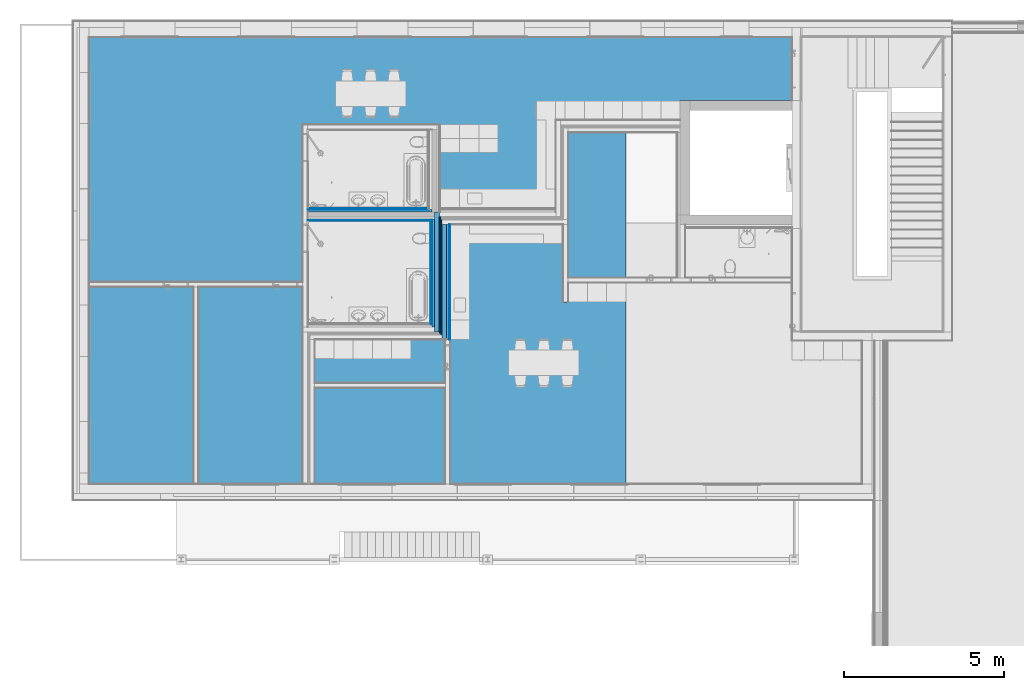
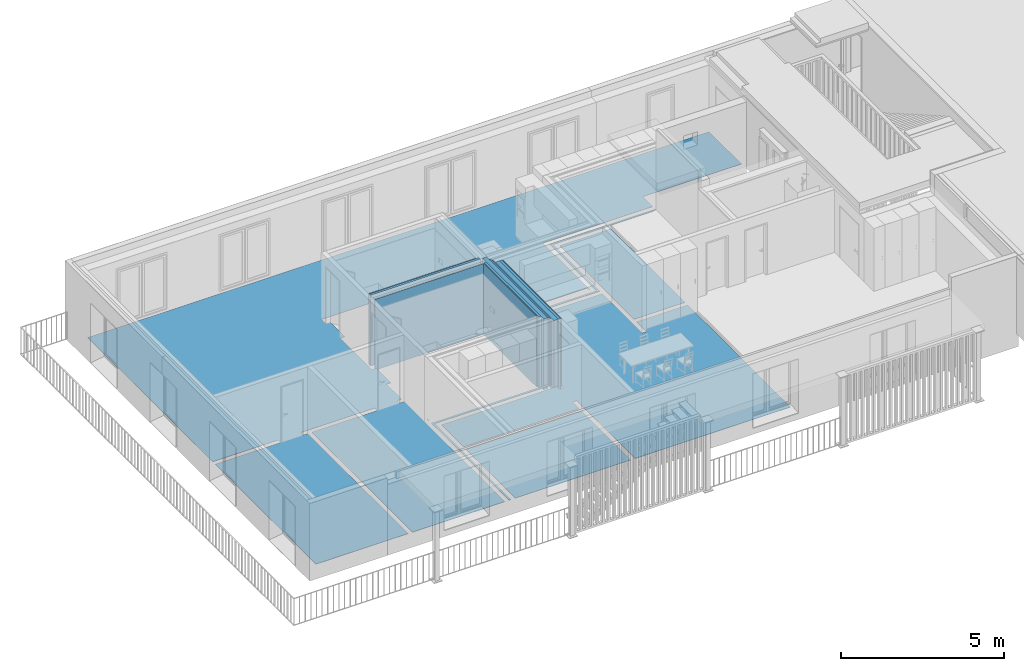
# One storey, part 9 of 34: 18 building element parts, 7 elements without a shape of their own.
"""IFC4 building model written with IfcOpenShell, lengths in millimetres."""

from ifc_helpers import new_model, entity, si_unit, converted_unit, derived_unit, direction, frame, origin_with_axes, place, context, subcontext, project, spatial, polygons, material, type_object, element, aggregate, save


model = new_model("IFC4")

# Units and contexts
model_context = context("Model", 3, precision=0.01, world=origin_with_axes(), true_north=direction((0.0, 1.0)))
body_context = subcontext(model_context, "Body", "Model", "MODEL_VIEW")
ifc_project = project(units=[si_unit("LENGTHUNIT", "METRE", prefix="MILLI"), si_unit("AREAUNIT", "SQUARE_METRE"), si_unit("VOLUMEUNIT", "CUBIC_METRE"), converted_unit("PLANEANGLEUNIT", "DEGREE", entity("IfcPlaneAngleMeasure", 0.0174532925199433), si_unit("PLANEANGLEUNIT", "RADIAN"), dimensions=[0, 0, 0, 0, 0, 0, 0]), converted_unit("TIMEUNIT", "Year", entity("IfcTimeMeasure", 31557600.0), si_unit("TIMEUNIT", "SECOND"), dimensions=[0, 0, 1, 0, 0, 0, 0]), si_unit("MASSUNIT", "GRAM", prefix="KILO"), si_unit("THERMODYNAMICTEMPERATUREUNIT", "DEGREE_CELSIUS"), si_unit("LUMINOUSINTENSITYUNIT", "LUMEN"), si_unit("ENERGYUNIT", "JOULE", prefix="MEGA"), derived_unit("THERMALCONDUCTANCEUNIT", [(si_unit("POWERUNIT", "WATT"), 1), (si_unit("LENGTHUNIT", "METRE"), -1), (si_unit("THERMODYNAMICTEMPERATUREUNIT", "KELVIN"), -1)]), derived_unit("SPECIFICHEATCAPACITYUNIT", [(si_unit("ENERGYUNIT", "JOULE"), 1), (si_unit("MASSUNIT", "GRAM", prefix="KILO"), -1), (si_unit("THERMODYNAMICTEMPERATUREUNIT", "KELVIN"), -1)]), derived_unit("MASSDENSITYUNIT", [(si_unit("MASSUNIT", "GRAM", prefix="KILO"), 1), (si_unit("VOLUMEUNIT", "CUBIC_METRE"), -1)])], contexts=[model_context])

# Site, building, storey
site_placement = place(None, origin_with_axes())
site = spatial("IfcSite", under=ifc_project, at=site_placement, Name="Gelände", CompositionType="ELEMENT")
building_placement = place(site_placement, origin_with_axes())
building = spatial("IfcBuilding", under=site, at=building_placement, Name="Gebäude", CompositionType="ELEMENT")
storey_placement = place(building_placement, frame((0.0, 0.0, 5799.999999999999), z_axis=(0.0, 0.0, 1.0), x_axis=(1.0, 0.0, 0.0)))
storey = spatial("IfcBuildingStorey", under=building, at=storey_placement, Name="2.OG", CompositionType="ELEMENT", Elevation=5800.0)

# Covering, building element part
covering_type = type_object("IfcCoveringType", Name="Bodenaufbau Typ 01 150", PredefinedType="NOTDEFINED")
covering_placement = place(storey_placement, frame((-6561.004181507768, 23457.59674077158, 0.0), z_axis=(0.0, 0.0, 1.0), x_axis=(1.0, 0.0, 0.0)))
covering = element("IfcCovering", 1, at=covering_placement, inside=storey, type_object=covering_type, Name="Decke-007", PredefinedType="NOTDEFINED")
ifc_material_1 = material(Name="Bodenbelag")
building_element_part_1_placement = place(covering_placement, origin_with_axes())
building_element_part_1 = element("IfcBuildingElementPart", 2, at=building_element_part_1_placement, material=ifc_material_1, Name="Bodenbelag", PredefinedType="NOTDEFINED", context=body_context, shape_type="Tessellation", body=[
    polygons([(16790.00162627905, 11000.00054054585, 135.0000000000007), (16790.00162627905, 11000.00054054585, 150.0000000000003), (16790.00162627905, 6450.000540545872, 150.0000000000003), (16790.00162627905, 6450.000540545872, 135.0000000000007), (14980.00162627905, 11000.00054054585, 150.0000000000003), (14980.00162627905, 11000.00054054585, 135.0000000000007), (14980.00162627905, 8275.000540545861, 150.0000000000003), (14980.00162627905, 8125.000540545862, 150.0000000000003), (14980.00162627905, 6450.000540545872, 150.0000000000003), (14980.00162627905, 6450.000540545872, 135.0000000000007), (14980.00162627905, 8125.000540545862, 135.0000000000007), (14980.00162627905, 8275.000540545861, 135.0000000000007)], [[[1, 2, 3, 4]], [[5, 2, 1, 6]], [[2, 5, 7, 8, 9, 3]], [[9, 10, 4, 3]], [[6, 1, 4, 10, 11, 12]], [[5, 6, 12, 7]], [[7, 12, 11, 8]], [[8, 11, 10, 9]]], closed=True),
    polygons([(10621.77773059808, 8610.000540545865, 150.0000000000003), (10621.77773059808, 8620.000540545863, 150.0000000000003), (10611.77773059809, 8620.000540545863, 150.0000000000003), (10611.77773059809, 8610.000540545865, 150.0000000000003), (10621.77773059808, 8620.000540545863, 135.0000000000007), (10621.77773059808, 8610.000540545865, 135.0000000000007), (10611.77773059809, 8620.000540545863, 135.0000000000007), (10611.77773059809, 8610.000540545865, 135.0000000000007)], [[[1, 2, 3, 4]], [[5, 2, 1, 6]], [[2, 5, 7, 3]], [[3, 7, 8, 4]], [[6, 1, 4, 8]], [[5, 6, 8, 7]]], closed=True),
    polygons([(3420.000000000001, 6167.487519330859, 150.0000000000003), (3420.000000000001, 0.0, 150.0000000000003), (6683.999999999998, 0.0, 150.0000000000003), (6683.999999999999, 4756.776644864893, 150.0000000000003), (6683.999999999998, 4906.776644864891, 150.0000000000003), (6683.999999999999, 6167.487519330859, 150.0000000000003), (6534.0, 6167.487519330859, 150.0000000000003), (6534.0, 6317.487519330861, 150.0000000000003), (6683.999999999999, 6317.487519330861, 150.0000000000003), (6683.999999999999, 7245.000540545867, 150.0000000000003), (6843.999999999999, 7245.000540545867, 150.0000000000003), (6843.999999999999, 8135.000540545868, 150.0000000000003), (6683.999999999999, 8135.000540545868, 150.0000000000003), (6684.0, 10081.46696329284, 150.0000000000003), (6844.0, 10081.46696329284, 150.0000000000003), (6844.0, 10971.46696329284, 150.0000000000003), (6684.0, 10971.46696329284, 150.0000000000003), (6684.0, 11236.46696329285, 150.0000000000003), (6834.000000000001, 11236.46696329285, 150.0000000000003), (10876.77773059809, 11236.46696329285, 150.0000000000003), (10876.77773059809, 11246.46696329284, 150.0000000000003), (10981.77773059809, 11246.46696329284, 150.0000000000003), (10981.77773059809, 8610.000540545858, 150.0000000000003), (14590.00162627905, 8610.000540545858, 150.0000000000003), (14590.00162627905, 8505.000540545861, 150.0000000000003), (14600.00162627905, 8505.000540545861, 150.0000000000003), (14600.00162627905, 11380.00054054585, 150.0000000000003), (14750.00162627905, 11380.00054054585, 150.0000000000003), (18490.00162627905, 11380.00054054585, 150.0000000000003), (18490.00162627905, 11990.00054054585, 150.0000000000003), (21980.00162627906, 11990.00054054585, 150.0000000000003), (21980.00162627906, 13980.00054054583, 150.0000000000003), (0.0, 13980.00054054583, 150.0000000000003), (0.0, 6317.487519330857, 150.0000000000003), (2310.000000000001, 6317.487519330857, 150.0000000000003), (2310.000000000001, 6167.487519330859, 150.0000000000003), (0.0, 6167.487519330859, 150.0000000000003), (0.0, 0.0, 150.0000000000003), (3270.0, 0.0, 150.0000000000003), (3270.0, 6167.487519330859, 150.0000000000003), (3110.000000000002, 6167.487519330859, 150.0000000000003), (3110.000000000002, 6317.487519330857, 150.0000000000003), (5733.999999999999, 6317.487519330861, 150.0000000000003), (5733.999999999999, 6167.487519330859, 150.0000000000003), (3420.000000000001, 6167.487519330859, 135.0000000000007), (3420.000000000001, 0.0, 135.0000000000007), (6683.999999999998, 0.0, 135.0000000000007), (6683.999999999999, 4756.776644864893, 135.0000000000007), (6683.999999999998, 4906.776644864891, 135.0000000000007), (6683.999999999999, 6167.487519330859, 135.0000000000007), (6534.0, 6167.487519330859, 135.0000000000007), (6534.0, 6317.487519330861, 135.0000000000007), (6683.999999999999, 6317.487519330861, 135.0000000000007), (6683.999999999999, 7245.000540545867, 135.0000000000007), (6843.999999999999, 7245.000540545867, 135.0000000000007), (6843.999999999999, 8135.000540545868, 135.0000000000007), (6683.999999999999, 8135.000540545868, 135.0000000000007), (6684.0, 10081.46696329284, 135.0000000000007), (6844.0, 10081.46696329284, 135.0000000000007), (6844.0, 10971.46696329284, 135.0000000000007), (6684.0, 10971.46696329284, 135.0000000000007), (6684.0, 11236.46696329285, 135.0000000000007), (6834.000000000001, 11236.46696329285, 135.0000000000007), (10876.77773059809, 11236.46696329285, 135.0000000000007), (10876.77773059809, 11246.46696329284, 135.0000000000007), (10981.77773059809, 11246.46696329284, 135.0000000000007), (10981.77773059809, 8610.000540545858, 135.0000000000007), (14590.00162627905, 8610.000540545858, 135.0000000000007), (14590.00162627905, 8505.000540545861, 135.0000000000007), (14600.00162627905, 8505.000540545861, 135.0000000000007), (14600.00162627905, 11380.00054054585, 135.0000000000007), (14750.00162627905, 11380.00054054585, 135.0000000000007), (18490.00162627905, 11380.00054054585, 135.0000000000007), (18490.00162627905, 11990.00054054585, 135.0000000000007), (21980.00162627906, 11990.00054054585, 135.0000000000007), (21980.00162627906, 13980.00054054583, 135.0000000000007), (0.0, 13980.00054054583, 135.0000000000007), (0.0, 6317.487519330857, 135.0000000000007), (2310.000000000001, 6317.487519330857, 135.0000000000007), (2310.000000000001, 6167.487519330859, 135.0000000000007), (0.0, 6167.487519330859, 135.0000000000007), (0.0, 0.0, 135.0000000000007), (3270.0, 0.0, 135.0000000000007), (3270.0, 6167.487519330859, 135.0000000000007), (3110.000000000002, 6167.487519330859, 135.0000000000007), (3110.000000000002, 6317.487519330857, 135.0000000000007), (5733.999999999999, 6317.487519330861, 135.0000000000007), (5733.999999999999, 6167.487519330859, 135.0000000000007)], [[[1, 2, 3, 4, 5, 6, 7, 8, 9, 10, 11, 12, 13, 14, 15, 16, 17, 18, 19, 20, 21, 22, 23, 24, 25, 26, 27, 28, 29, 30, 31, 32, 33, 34, 35, 36, 37, 38, 39, 40, 41, 42, 43, 44]], [[2, 1, 45, 46]], [[2, 46, 47, 3]], [[48, 4, 3, 47]], [[4, 48, 49, 5]], [[5, 49, 50, 6]], [[6, 50, 51, 7]], [[8, 7, 51, 52]], [[53, 9, 8, 52]], [[10, 9, 53, 54]], [[11, 10, 54, 55]], [[11, 55, 56, 12]], [[57, 13, 12, 56]], [[14, 13, 57, 58]], [[15, 14, 58, 59]], [[15, 59, 60, 16]], [[61, 17, 16, 60]], [[18, 17, 61, 62]], [[63, 19, 18, 62]], [[64, 20, 19, 63]], [[21, 20, 64, 65]], [[66, 22, 21, 65]], [[23, 22, 66, 67]], [[23, 67, 68, 24]], [[24, 68, 69, 25]], [[25, 69, 70, 26]], [[26, 70, 71, 27]], [[72, 28, 27, 71]], [[28, 72, 73, 29]], [[29, 73, 74, 30]], [[74, 75, 31, 30]], [[75, 76, 32, 31]], [[76, 77, 33, 32]], [[78, 34, 33, 77]], [[35, 34, 78, 79]], [[36, 35, 79, 80]], [[37, 36, 80, 81]], [[37, 81, 82, 38]], [[83, 39, 38, 82]], [[84, 40, 39, 83]], [[40, 84, 85, 41]], [[42, 41, 85, 86]], [[43, 42, 86, 87]], [[44, 43, 87, 88]], [[45, 1, 44, 88]], [[46, 45, 88, 87, 86, 85, 84, 83, 82, 81, 80, 79, 78, 77, 76, 75, 74, 73, 72, 71, 70, 69, 68, 67, 66, 65, 64, 63, 62, 61, 60, 59, 58, 57, 56, 55, 54, 53, 52, 51, 50, 49, 48, 47]]], closed=True),
    polygons([(10726.77773059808, 11076.46696329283, 150.0000000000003), (10726.77773059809, 11086.46696329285, 150.0000000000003), (10611.77773059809, 11086.46696329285, 150.0000000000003), (10611.77773059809, 11076.46696329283, 150.0000000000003), (10726.77773059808, 11076.46696329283, 135.0000000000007), (10726.77773059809, 11086.46696329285, 135.0000000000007), (10611.77773059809, 11086.46696329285, 135.0000000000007), (10611.77773059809, 11076.46696329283, 135.0000000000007)], [[[1, 2, 3, 4]], [[1, 5, 6, 2]], [[2, 6, 7, 3]], [[8, 4, 3, 7]], [[5, 1, 4, 8]], [[5, 8, 7, 6]]], closed=True),
    polygons([(10702.0, 8240.000540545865, 150.0000000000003), (10702.0, 8250.000540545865, 150.0000000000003), (10692.0, 8250.000540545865, 150.0000000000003), (10692.0, 8240.000540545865, 150.0000000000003), (10702.0, 8250.000540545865, 135.0000000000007), (10702.0, 8240.000540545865, 135.0000000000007), (10692.0, 8250.000540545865, 135.0000000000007), (10692.0, 8240.000540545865, 135.0000000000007)], [[[1, 2, 3, 4]], [[5, 2, 1, 6]], [[2, 5, 7, 3]], [[8, 4, 3, 7]], [[6, 1, 4, 8]], [[5, 6, 8, 7]]], closed=True),
    polygons([(6903.99998159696, 0.0, 150.0000000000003), (6903.99998159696, 4526.776644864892, 150.0000000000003), (6903.99998159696, 4676.776644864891, 150.0000000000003), (11037.0, 4676.776644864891, 150.0000000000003), (11037.0, 8125.000540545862, 150.0000000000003), (11037.0, 8275.000540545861, 150.0000000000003), (14830.00162627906, 8275.000540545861, 150.0000000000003), (14830.00162627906, 11150.00054054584, 150.0000000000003), (14980.00162627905, 11150.00054054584, 150.0000000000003), (18385.00162627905, 11150.00054054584, 150.0000000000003), (18385.00162627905, 11190.00054054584, 150.0000000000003), (18490.00162627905, 11190.00054054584, 150.0000000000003), (18490.00162627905, 11230.00054054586, 150.0000000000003), (14750.00162627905, 11230.00054054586, 150.0000000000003), (14750.00162627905, 8355.000540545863, 150.0000000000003), (14600.00162627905, 8355.000540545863, 150.0000000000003), (10957.0, 8355.000540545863, 150.0000000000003), (10957.0, 4756.776644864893, 150.0000000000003), (10807.0, 4756.776644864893, 150.0000000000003), (6833.999999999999, 4756.776644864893, 150.0000000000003), (6833.999999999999, 0.0, 150.0000000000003), (6903.99998159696, 4526.776644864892, 135.0000000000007), (6903.99998159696, 0.0, 135.0000000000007), (6903.99998159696, 4676.776644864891, 135.0000000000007), (11037.0, 4676.776644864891, 135.0000000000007), (11037.0, 8125.000540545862, 135.0000000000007), (11037.0, 8275.000540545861, 135.0000000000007), (14830.00162627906, 8275.000540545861, 135.0000000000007), (14830.00162627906, 11150.00054054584, 135.0000000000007), (14980.00162627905, 11150.00054054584, 135.0000000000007), (18385.00162627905, 11150.00054054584, 135.0000000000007), (18385.00162627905, 11190.00054054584, 135.0000000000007), (18490.00162627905, 11190.00054054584, 135.0000000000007), (18490.00162627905, 11230.00054054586, 135.0000000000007), (14750.00162627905, 11230.00054054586, 135.0000000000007), (14750.00162627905, 8355.000540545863, 135.0000000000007), (14600.00162627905, 8355.000540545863, 135.0000000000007), (10957.0, 8355.000540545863, 135.0000000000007), (10957.0, 4756.776644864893, 135.0000000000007), (10807.0, 4756.776644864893, 135.0000000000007), (6833.999999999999, 4756.776644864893, 135.0000000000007), (6833.999999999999, 0.0, 135.0000000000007)], [[[1, 2, 3, 4, 5, 6, 7, 8, 9, 10, 11, 12, 13, 14, 15, 16, 17, 18, 19, 20, 21]], [[22, 2, 1, 23]], [[2, 22, 24, 3]], [[25, 4, 3, 24]], [[4, 25, 26, 5]], [[5, 26, 27, 6]], [[28, 7, 6, 27]], [[8, 7, 28, 29]], [[30, 9, 8, 29]], [[10, 9, 30, 31]], [[11, 10, 31, 32]], [[33, 12, 11, 32]], [[12, 33, 34, 13]], [[35, 14, 13, 34]], [[15, 14, 35, 36]], [[37, 16, 15, 36]], [[17, 16, 37, 38]], [[17, 38, 39, 18]], [[40, 19, 18, 39]], [[41, 20, 19, 40]], [[21, 20, 41, 42]], [[23, 1, 21, 42]], [[22, 23, 42, 41, 40, 39, 38, 37, 36, 35, 34, 33, 32, 31, 30, 29, 28, 27, 26, 25, 24]]], closed=True),
    polygons([(11142.0, 3010.000000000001, 135.0000000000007), (11142.0, 3010.000000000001, 150.0000000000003), (11142.0, 0.0, 150.0000000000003), (11142.0, 0.0, 135.0000000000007), (7053.99998159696, 3010.000000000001, 150.0000000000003), (7053.99998159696, 3010.000000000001, 135.0000000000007), (7053.99998159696, 0.0, 150.0000000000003), (7053.99998159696, 0.0, 135.0000000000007)], [[[1, 2, 3, 4]], [[5, 2, 1, 6]], [[2, 5, 7, 3]], [[4, 3, 7, 8]], [[6, 1, 4, 8]], [[5, 6, 8, 7]]], closed=True),
    polygons([(6843.999999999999, 4906.776644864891, 150.0000000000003), (6843.999999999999, 5021.77664486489, 150.0000000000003), (6833.999999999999, 5021.77664486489, 150.0000000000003), (6833.999999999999, 4906.776644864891, 150.0000000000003), (6843.999999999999, 4906.776644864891, 135.0000000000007), (6843.999999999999, 5021.77664486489, 135.0000000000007), (6833.999999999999, 5021.77664486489, 135.0000000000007), (6833.999999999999, 4906.776644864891, 135.0000000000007)], [[[1, 2, 3, 4]], [[2, 1, 5, 6]], [[2, 6, 7, 3]], [[8, 4, 3, 7]], [[5, 1, 4, 8]], [[5, 8, 7, 6]]], closed=True),
    polygons([(7053.99998159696, 3160.0, 150.0000000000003), (11142.0, 3160.0, 150.0000000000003), (11142.0, 3566.776644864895, 150.0000000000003), (11292.0, 3566.776644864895, 150.0000000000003), (11292.0, 0.0, 150.0000000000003), (16790.00162627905, 0.0, 150.0000000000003), (16790.00162627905, 6300.000540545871, 150.0000000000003), (14980.00162627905, 6300.000540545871, 150.0000000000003), (14980.00162627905, 5692.00054054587, 150.0000000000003), (14830.00162627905, 5692.00054054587, 150.0000000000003), (14830.00162627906, 8125.000540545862, 150.0000000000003), (11292.0, 8125.000540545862, 150.0000000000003), (11292.0, 4366.776644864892, 150.0000000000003), (11142.0, 4366.776644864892, 150.0000000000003), (11142.0, 4516.776644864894, 150.0000000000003), (11187.0, 4516.776644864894, 150.0000000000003), (11187.0, 4526.776644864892, 150.0000000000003), (11037.0, 4526.776644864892, 150.0000000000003), (7053.999981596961, 4526.776644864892, 150.0000000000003), (11142.0, 3160.0, 135.0000000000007), (7053.99998159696, 3160.0, 135.0000000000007), (11142.0, 3566.776644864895, 135.0000000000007), (11292.0, 3566.776644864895, 135.0000000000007), (11292.0, 0.0, 135.0000000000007), (16790.00162627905, 0.0, 135.0000000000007), (16790.00162627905, 6300.000540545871, 135.0000000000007), (14980.00162627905, 6300.000540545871, 135.0000000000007), (14980.00162627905, 5692.00054054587, 135.0000000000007), (14830.00162627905, 5692.00054054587, 135.0000000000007), (14830.00162627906, 8125.000540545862, 135.0000000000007), (11292.0, 8125.000540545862, 135.0000000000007), (11292.0, 4366.776644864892, 135.0000000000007), (11142.0, 4366.776644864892, 135.0000000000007), (11142.0, 4516.776644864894, 135.0000000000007), (11187.0, 4516.776644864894, 135.0000000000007), (11187.0, 4526.776644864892, 135.0000000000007), (11037.0, 4526.776644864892, 135.0000000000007), (7053.999981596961, 4526.776644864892, 135.0000000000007)], [[[1, 2, 3, 4, 5, 6, 7, 8, 9, 10, 11, 12, 13, 14, 15, 16, 17, 18, 19]], [[20, 2, 1, 21]], [[2, 20, 22, 3]], [[4, 3, 22, 23]], [[5, 4, 23, 24]], [[5, 24, 25, 6]], [[26, 7, 6, 25]], [[27, 8, 7, 26]], [[9, 8, 27, 28]], [[10, 9, 28, 29]], [[30, 11, 10, 29]], [[31, 12, 11, 30]], [[31, 32, 13, 12]], [[14, 13, 32, 33]], [[15, 14, 33, 34]], [[35, 16, 15, 34]], [[16, 35, 36, 17]], [[37, 18, 17, 36]], [[38, 19, 18, 37]], [[21, 1, 19, 38]], [[20, 21, 38, 37, 36, 35, 34, 33, 32, 31, 30, 29, 28, 27, 26, 25, 24, 23, 22]]], closed=True),
])
aggregate(covering, [building_element_part_1])

# Wall, building element parts
wall_type_1 = type_object("IfcWallType", Name="Trennwand Typ 02 - kein Putz 190", PredefinedType="NOTDEFINED")
wall_1_placement = place(storey_placement, frame((4245.995818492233, 31962.59728131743, 0.0), z_axis=(0.0, 0.0, 1.0), x_axis=(0.0, -1.0, 0.0)))
wall_1 = element("IfcWall", 3, at=wall_1_placement, inside=storey, type_object=wall_type_1, Name="Wand-015", PredefinedType="NOTDEFINED")
ifc_material_2 = material(Name="MW, Backstein")
building_element_part_2_placement = place(wall_1_placement, origin_with_axes())
building_element_part_2 = element("IfcBuildingElementPart", 4, at=building_element_part_2_placement, material=ifc_material_2, Name="MW, Backstein", PredefinedType="NOTDEFINED", context=body_context, shape_type="Tessellation", body=[
    polygons([(3748.223895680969, 150.0000000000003, 0.0), (3748.223895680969, 0.0, 0.0), (0.0, 0.0, 0.0), (0.0, 150.0000000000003, 0.0), (3748.223895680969, 150.0000000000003, 2649.999948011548), (3748.223895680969, 0.0, 2649.999948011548), (0.0, 0.0, 2649.999948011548), (0.0, 150.0000000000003, 2649.999948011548)], [[[1, 2, 3, 4]], [[2, 1, 5, 6]], [[2, 6, 7, 3]], [[8, 4, 3, 7]], [[5, 1, 4, 8]], [[6, 5, 8, 7]]], closed=True),
])
ifc_material_3 = material(Name="Dämmung Innen")
building_element_part_3_placement = place(wall_1_placement, origin_with_axes())
building_element_part_3 = element("IfcBuildingElementPart", 5, at=building_element_part_3_placement, material=ifc_material_3, Name="Dämmung Innen", PredefinedType="NOTDEFINED", context=body_context, shape_type="Tessellation", body=[
    polygons([(3788.223895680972, 190.0000000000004, 150.0000000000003), (149.9999999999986, 190.0000000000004, 150.0000000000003), (149.9999999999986, 190.0000000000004, 2649.999948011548), (3788.223895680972, 190.0000000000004, 2649.999948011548), (149.9999999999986, 150.0000000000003, 150.0000000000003), (3788.223895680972, 150.0000000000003, 150.0000000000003), (149.9999999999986, 150.0000000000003, 2649.999948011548), (3788.223895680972, 150.0000000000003, 2649.999948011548)], [[[1, 2, 3, 4]], [[5, 2, 1, 6]], [[2, 5, 7, 3]], [[8, 4, 3, 7]], [[6, 1, 4, 8]], [[5, 6, 8, 7]]], closed=True),
])
aggregate(wall_1, [building_element_part_2, building_element_part_3])

wall_type_2 = type_object("IfcWallType", Name="Vorsatzschale 01 115", PredefinedType="NOTDEFINED")
wall_2_placement = place(storey_placement, frame((4740.995818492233, 31582.59728131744, 0.0), z_axis=(0.0, 0.0, 1.0), x_axis=(0.0, -1.0, 0.0)))
wall_2 = element("IfcWall", 6, at=wall_2_placement, inside=storey, type_object=wall_type_2, Name="Wand-014", PredefinedType="NOTDEFINED")
ifc_material_4 = material(Name="Kalkzementputz Aussen")
building_element_part_4_placement = place(wall_2_placement, origin_with_axes())
building_element_part_4 = element("IfcBuildingElementPart", 7, at=building_element_part_4_placement, material=ifc_material_4, Name="Kalkzementputz Aussen", PredefinedType="NOTDEFINED", context=body_context, shape_type="Tessellation", body=[
    polygons([(3608.223895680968, 0.0, 150.0000000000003), (10.00000000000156, 0.0, 150.0000000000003), (10.00000000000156, 0.0, 2649.999948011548), (3608.223895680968, 0.0, 2649.999948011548), (10.00000000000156, -9.999999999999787, 150.0000000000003), (3608.223895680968, -9.999999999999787, 150.0000000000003), (10.00000000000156, -9.999999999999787, 2649.999948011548), (3608.223895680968, -9.999999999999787, 2649.999948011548)], [[[1, 2, 3, 4]], [[5, 2, 1, 6]], [[2, 5, 7, 3]], [[7, 8, 4, 3]], [[6, 1, 4, 8]], [[5, 6, 8, 7]]], closed=True),
])
ifc_material_5 = material(Name="Gipskartonplatte GKP")
building_element_part_5_placement = place(wall_2_placement, origin_with_axes())
building_element_part_5 = element("IfcBuildingElementPart", 8, at=building_element_part_5_placement, material=ifc_material_5, Name="Gipskartonplatte GKP", PredefinedType="NOTDEFINED", context=body_context, shape_type="Tessellation", body=[
    polygons([(3608.223895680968, -34.99999999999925, 2649.999948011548), (3608.223895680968, -22.49999999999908, 2649.999948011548), (0.0, -22.49999999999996, 2649.999948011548), (0.0, -35.00000000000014, 2649.999948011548), (3608.223895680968, -34.99999999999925, 0.0), (3608.223895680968, -22.49999999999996, 0.0), (0.0, -22.49999999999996, 0.0), (0.0, -35.00000000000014, 0.0)], [[[1, 2, 3, 4]], [[1, 5, 6, 2]], [[2, 6, 7, 3]], [[4, 3, 7, 8]], [[5, 1, 4, 8]], [[6, 5, 8, 7]]], closed=True),
])
building_element_part_6_placement = place(wall_2_placement, origin_with_axes())
building_element_part_6 = element("IfcBuildingElementPart", 9, at=building_element_part_6_placement, material=ifc_material_5, Name="Gipskartonplatte GKP", PredefinedType="NOTDEFINED", context=body_context, shape_type="Tessellation", body=[
    polygons([(3608.223895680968, -22.49999999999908, 2649.999948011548), (3608.223895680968, -9.999999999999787, 2649.999948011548), (0.0, -9.999999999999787, 2649.999948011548), (0.0, -22.49999999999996, 2649.999948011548), (3608.223895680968, -22.49999999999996, 0.0), (3608.223895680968, -9.999999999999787, 0.0), (0.0, -9.999999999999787, 0.0), (0.0, -22.49999999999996, 0.0)], [[[1, 2, 3, 4]], [[1, 5, 6, 2]], [[2, 6, 7, 3]], [[4, 3, 7, 8]], [[5, 1, 4, 8]], [[6, 5, 8, 7]]], closed=True),
])
ifc_material_6 = material(Name="Ständer Konstruktion gedämmt")
building_element_part_7_placement = place(wall_2_placement, origin_with_axes())
building_element_part_7 = element("IfcBuildingElementPart", 10, at=building_element_part_7_placement, material=ifc_material_6, Name="Ständer Konstruktion gedämmt", PredefinedType="NOTDEFINED", context=body_context, shape_type="Tessellation", body=[
    polygons([(3608.223895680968, -114.9999999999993, 2649.999948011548), (3608.223895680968, -34.99999999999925, 2649.999948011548), (0.0, -35.00000000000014, 2649.999948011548), (0.0, -115.0000000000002, 2649.999948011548), (3608.223895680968, -114.9999999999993, 0.0), (3608.223895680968, -34.99999999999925, 0.0), (0.0, -35.00000000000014, 0.0), (0.0, -115.0000000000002, 0.0)], [[[1, 2, 3, 4]], [[1, 5, 6, 2]], [[2, 6, 7, 3]], [[4, 3, 7, 8]], [[5, 1, 4, 8]], [[6, 5, 8, 7]]], closed=True),
])
aggregate(wall_2, [building_element_part_4, building_element_part_5, building_element_part_6, building_element_part_7])

wall_3_placement = place(storey_placement, frame((4625.995818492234, 31582.59728131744, 0.0), z_axis=(0.0, 0.0, 1.0), x_axis=(0.0, -1.0, 0.0)))
wall_3 = element("IfcWall", 11, at=wall_3_placement, inside=storey, type_object=wall_type_1, Name="Wand-015", PredefinedType="NOTDEFINED")
building_element_part_8_placement = place(wall_3_placement, origin_with_axes())
building_element_part_8 = element("IfcBuildingElementPart", 12, at=building_element_part_8_placement, material=ifc_material_2, Name="MW, Backstein", PredefinedType="NOTDEFINED", context=body_context, shape_type="Tessellation", body=[
    polygons([(3598.22389568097, 0.0, 2649.999948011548), (0.0, 0.0, 2649.999948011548), (0.0, -149.9999999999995, 2649.999948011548), (3598.22389568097, -149.9999999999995, 2649.999948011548), (3598.22389568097, 0.0, 0.0), (0.0, 0.0, 0.0), (0.0, -150.0000000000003, 0.0), (3598.22389568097, -149.9999999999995, 0.0)], [[[1, 2, 3, 4]], [[5, 6, 2, 1]], [[3, 2, 6, 7]], [[4, 3, 7, 8]], [[4, 8, 5, 1]], [[8, 7, 6, 5]]], closed=True),
])
building_element_part_9_placement = place(wall_3_placement, origin_with_axes())
building_element_part_9 = element("IfcBuildingElementPart", 13, at=building_element_part_9_placement, material=ifc_material_3, Name="Dämmung Innen", PredefinedType="NOTDEFINED", context=body_context, shape_type="Tessellation", body=[
    polygons([(3448.223895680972, -149.9999999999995, 150.0000000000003), (-149.9999999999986, -150.0000000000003, 150.0000000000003), (-149.9999999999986, -149.9999999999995, 2649.999948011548), (3448.223895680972, -149.9999999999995, 2649.999948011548), (-149.9999999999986, -190.0000000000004, 150.0000000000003), (3448.223895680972, -189.9999999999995, 150.0000000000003), (-149.9999999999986, -189.9999999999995, 2649.999948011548), (3448.223895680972, -189.9999999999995, 2649.999948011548)], [[[1, 2, 3, 4]], [[5, 2, 1, 6]], [[2, 5, 7, 3]], [[8, 4, 3, 7]], [[6, 1, 4, 8]], [[5, 6, 8, 7]]], closed=True),
])
aggregate(wall_3, [building_element_part_8, building_element_part_9])

wall_4_placement = place(storey_placement, frame((4050.773549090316, 32077.59728131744, 0.0), z_axis=(0.0, 0.0, 1.0), x_axis=(-1.0, 0.0, 0.0)))
wall_4 = element("IfcWall", 14, at=wall_4_placement, inside=storey, type_object=wall_type_2, Name="Wand-014", PredefinedType="NOTDEFINED")
building_element_part_10_placement = place(wall_4_placement, origin_with_axes())
building_element_part_10 = element("IfcBuildingElementPart", 15, at=building_element_part_10_placement, material=ifc_material_6, Name="Ständer Konstruktion gedämmt", PredefinedType="NOTDEFINED", context=body_context, shape_type="Tessellation", body=[
    polygons([(3767.777730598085, 114.9999999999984, 0.0), (3767.777730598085, 34.99999999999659, 0.0), (-115.0000000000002, 34.99999999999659, 0.0), (-115.0000000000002, 114.9999999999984, 0.0), (3767.777730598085, 114.9999999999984, 2649.999948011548), (3767.777730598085, 34.99999999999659, 2649.999948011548), (-115.0000000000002, 35.00000000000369, 2649.999948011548), (-115.0000000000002, 114.9999999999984, 2649.999948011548)], [[[1, 2, 3, 4]], [[1, 5, 6, 2]], [[2, 6, 7, 3]], [[4, 3, 7, 8]], [[5, 1, 4, 8]], [[6, 5, 8, 7]]], closed=True),
])
building_element_part_11_placement = place(wall_4_placement, origin_with_axes())
building_element_part_11 = element("IfcBuildingElementPart", 16, at=building_element_part_11_placement, material=ifc_material_5, Name="Gipskartonplatte GKP", PredefinedType="NOTDEFINED", context=body_context, shape_type="Tessellation", body=[
    polygons([(3767.777730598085, 34.99999999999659, 0.0), (3767.777730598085, 22.50000000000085, 0.0), (-35.00000000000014, 22.50000000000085, 0.0), (-35.00000000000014, 34.99999999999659, 0.0), (3767.777730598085, 34.99999999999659, 2649.999948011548), (3767.777730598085, 22.50000000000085, 2649.999948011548), (-35.00000000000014, 22.50000000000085, 2649.999948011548), (-35.00000000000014, 35.00000000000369, 2649.999948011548)], [[[1, 2, 3, 4]], [[1, 5, 6, 2]], [[2, 6, 7, 3]], [[4, 3, 7, 8]], [[5, 1, 4, 8]], [[6, 5, 8, 7]]], closed=True),
])
building_element_part_12_placement = place(wall_4_placement, origin_with_axes())
building_element_part_12 = element("IfcBuildingElementPart", 17, at=building_element_part_12_placement, material=ifc_material_5, Name="Gipskartonplatte GKP", PredefinedType="NOTDEFINED", context=body_context, shape_type="Tessellation", body=[
    polygons([(3767.777730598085, 22.50000000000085, 0.0), (3767.777730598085, 9.99999999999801, 0.0), (-22.49999999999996, 9.99999999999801, 0.0), (-22.49999999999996, 22.50000000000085, 0.0), (3767.777730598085, 22.50000000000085, 2649.999948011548), (3767.777730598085, 9.99999999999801, 2649.999948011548), (-22.49999999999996, 9.99999999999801, 2649.999948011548), (-22.49999999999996, 22.50000000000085, 2649.999948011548)], [[[1, 2, 3, 4]], [[1, 5, 6, 2]], [[2, 6, 7, 3]], [[4, 3, 7, 8]], [[5, 1, 4, 8]], [[6, 5, 8, 7]]], closed=True),
])
building_element_part_13_placement = place(wall_4_placement, origin_with_axes())
building_element_part_13 = element("IfcBuildingElementPart", 18, at=building_element_part_13_placement, material=ifc_material_4, Name="Kalkzementputz Aussen", PredefinedType="NOTDEFINED", context=body_context, shape_type="Tessellation", body=[
    polygons([(-9.999999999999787, 9.99999999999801, 150.0000000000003), (-9.999999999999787, 0.0, 150.0000000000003), (-9.999999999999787, 0.0, 2649.999948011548), (-9.999999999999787, 9.99999999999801, 2649.999948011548), (0.0, 0.0, 150.0000000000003), (0.0, 9.99999999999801, 150.0000000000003), (0.0, 0.0, 0.0), (3767.777730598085, 0.0, 0.0), (3767.777730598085, 0.0, 2649.999948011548), (3767.777730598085, 9.99999999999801, 2649.999948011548), (3767.777730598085, 9.99999999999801, 0.0), (0.0, 9.99999999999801, 0.0)], [[[1, 2, 3, 4]], [[5, 2, 1, 6]], [[5, 7, 8, 9, 3, 2]], [[3, 9, 10, 4]], [[6, 1, 4, 10, 11, 12]], [[5, 6, 12, 7]], [[7, 12, 11, 8]], [[8, 11, 10, 9]]], closed=True),
])
aggregate(wall_4, [building_element_part_10, building_element_part_11, building_element_part_12, building_element_part_13])

# Wall, building element part
wall_5_placement = place(storey_placement, frame((4130.995818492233, 31697.59728131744, 0.0), z_axis=(0.0, 0.0, 1.0), x_axis=(-1.0, 0.0, 0.0)))
wall_5 = element("IfcWall", 19, at=wall_5_placement, inside=storey, type_object=wall_type_2, Name="Wand-014", PredefinedType="NOTDEFINED")
building_element_part_14_placement = place(wall_5_placement, origin_with_axes())
building_element_part_14 = element("IfcBuildingElementPart", 20, at=building_element_part_14_placement, material=ifc_material_4, Name="Kalkzementputz Aussen", PredefinedType="NOTDEFINED", context=body_context, shape_type="Tessellation", body=[
    polygons([(-9.999999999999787, 0.0, 150.0000000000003), (-9.999999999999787, -10.00000000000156, 150.0000000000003), (-9.999999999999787, -10.00000000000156, 2649.999948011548), (-9.999999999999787, 0.0, 2649.999948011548), (0.0, -10.00000000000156, 150.0000000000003), (0.0, 0.0, 150.0000000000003), (0.0, -10.00000000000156, 0.0), (3848.000000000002, -10.00000000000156, 0.0), (3848.000000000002, -10.00000000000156, 2649.999948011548), (3848.000000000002, 0.0, 2649.999948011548), (3848.000000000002, 0.0, 0.0), (0.0, 0.0, 0.0)], [[[1, 2, 3, 4]], [[5, 2, 1, 6]], [[5, 7, 8, 9, 3, 2]], [[3, 9, 10, 4]], [[6, 1, 4, 10, 11, 12]], [[5, 6, 12, 7]], [[7, 12, 11, 8]], [[10, 9, 8, 11]]], closed=True),
])
aggregate(wall_5, [building_element_part_14])

# Wall, building element parts
wall_6_placement = place(storey_placement, frame((4130.995818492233, 31697.59728131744, 0.0), z_axis=(0.0, 0.0, 1.0), x_axis=(0.0, -1.0, 0.0)))
wall_6 = element("IfcWall", 21, at=wall_6_placement, inside=storey, type_object=wall_type_2, Name="Wand-014", PredefinedType="NOTDEFINED")
building_element_part_15_placement = place(wall_6_placement, origin_with_axes())
building_element_part_15 = element("IfcBuildingElementPart", 22, at=building_element_part_15_placement, material=ifc_material_5, Name="Gipskartonplatte GKP", PredefinedType="NOTDEFINED", context=body_context, shape_type="Tessellation", body=[
    polygons([(3253.223895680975, 22.50000000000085, 0.0), (-22.50000000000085, 22.49999999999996, 0.0), (-22.50000000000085, 35.00000000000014, 0.0), (3253.223895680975, 35.00000000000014, 0.0), (3253.223895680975, 22.50000000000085, 2649.999948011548), (-22.50000000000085, 22.49999999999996, 2649.999948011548), (-22.50000000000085, 35.00000000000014, 2649.999948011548), (3253.223895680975, 35.00000000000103, 2649.999948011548)], [[[1, 2, 3, 4]], [[5, 6, 2, 1]], [[3, 2, 6, 7]], [[4, 3, 7, 8]], [[4, 8, 5, 1]], [[8, 7, 6, 5]]], closed=True),
])
building_element_part_16_placement = place(wall_6_placement, origin_with_axes())
building_element_part_16 = element("IfcBuildingElementPart", 23, at=building_element_part_16_placement, material=ifc_material_6, Name="Ständer Konstruktion gedämmt", PredefinedType="NOTDEFINED", context=body_context, shape_type="Tessellation", body=[
    polygons([(3333.223895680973, 35.00000000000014, 0.0), (-35.00000000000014, 35.00000000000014, 0.0), (-35.00000000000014, 115.0000000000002, 0.0), (3333.223895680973, 115.0000000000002, 0.0), (3333.223895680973, 35.00000000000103, 2649.999948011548), (-35.00000000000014, 35.00000000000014, 2649.999948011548), (-35.00000000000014, 115.0000000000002, 2649.999948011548), (3333.223895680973, 115.0000000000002, 2649.999948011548)], [[[1, 2, 3, 4]], [[5, 6, 2, 1]], [[3, 2, 6, 7]], [[4, 3, 7, 8]], [[4, 8, 5, 1]], [[8, 7, 6, 5]]], closed=True),
])
building_element_part_17_placement = place(wall_6_placement, origin_with_axes())
building_element_part_17 = element("IfcBuildingElementPart", 24, at=building_element_part_17_placement, material=ifc_material_5, Name="Gipskartonplatte GKP", PredefinedType="NOTDEFINED", context=body_context, shape_type="Tessellation", body=[
    polygons([(3240.723895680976, 10.00000000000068, 0.0), (-10.00000000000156, 9.999999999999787, 0.0), (-10.00000000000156, 22.49999999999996, 0.0), (3240.723895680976, 22.50000000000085, 0.0), (3240.723895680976, 10.00000000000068, 2649.999948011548), (-10.00000000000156, 9.999999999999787, 2649.999948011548), (-10.00000000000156, 22.49999999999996, 2649.999948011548), (3240.723895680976, 22.50000000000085, 2649.999948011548)], [[[1, 2, 3, 4]], [[5, 6, 2, 1]], [[3, 2, 6, 7]], [[4, 3, 7, 8]], [[4, 8, 5, 1]], [[8, 7, 6, 5]]], closed=True),
])
building_element_part_18_placement = place(wall_6_placement, origin_with_axes())
building_element_part_18 = element("IfcBuildingElementPart", 25, at=building_element_part_18_placement, material=ifc_material_4, Name="Kalkzementputz Aussen", PredefinedType="NOTDEFINED", context=body_context, shape_type="Tessellation", body=[
    polygons([(3228.223895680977, 0.0, 0.0), (0.0, 0.0, 0.0), (0.0, 9.999999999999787, 0.0), (3228.223895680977, 10.00000000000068, 0.0), (3228.223895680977, 0.0, 2649.999948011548), (0.0, 0.0, 2649.999948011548), (0.0, 9.999999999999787, 2649.999948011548), (3228.223895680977, 10.00000000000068, 2649.999948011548)], [[[1, 2, 3, 4]], [[5, 6, 2, 1]], [[3, 2, 6, 7]], [[4, 3, 7, 8]], [[4, 8, 5, 1]], [[8, 7, 6, 5]]], closed=True),
])
aggregate(wall_6, [building_element_part_15, building_element_part_16, building_element_part_17, building_element_part_18])

save(model, "model.ifc")
